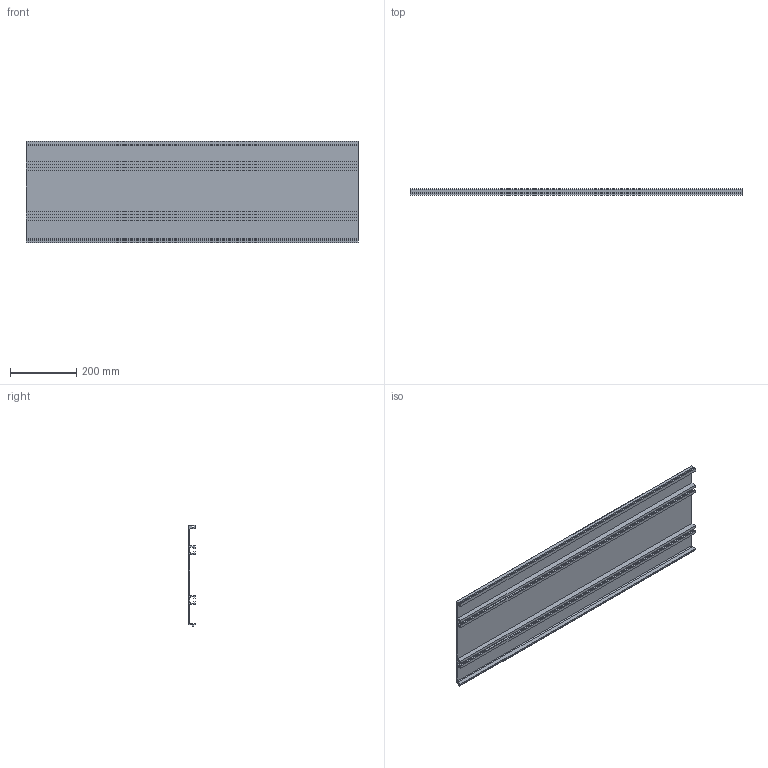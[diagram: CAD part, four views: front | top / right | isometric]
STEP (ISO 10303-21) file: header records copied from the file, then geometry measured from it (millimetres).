
FILE_DESCRIPTION(('FreeCAD Model'),'2;1');
FILE_NAME('Open CASCADE Shape Model','2026-09-24T21:28:04',('Author'),( ''),'Open CASCADE STEP processor 7.8','FreeCAD','Unknown');
FILE_SCHEMA(('AUTOMOTIVE_DESIGN { 1 0 10303 214 1 1 1 1 }'));
Length unit declared in the file: millimetre
Products named in the file (1): SP300
Bounding box: 1000 x 19 x 305.5 mm (x, y, z)
Volume: 1459073.9 mm3; surface area: 851763.3 mm2
Topology: 1 solids, 1 shells, 49 faces, 141 edges, 94 vertices
Faces by surface type: plane 42, cylinder 7
Entity records: 1599 total; most frequent: CARTESIAN_POINT 285, ORIENTED_EDGE 282, DIRECTION 255, EDGE_CURVE 141, LINE 127, VECTOR 127, VERTEX_POINT 94, AXIS2_PLACEMENT_3D 64
